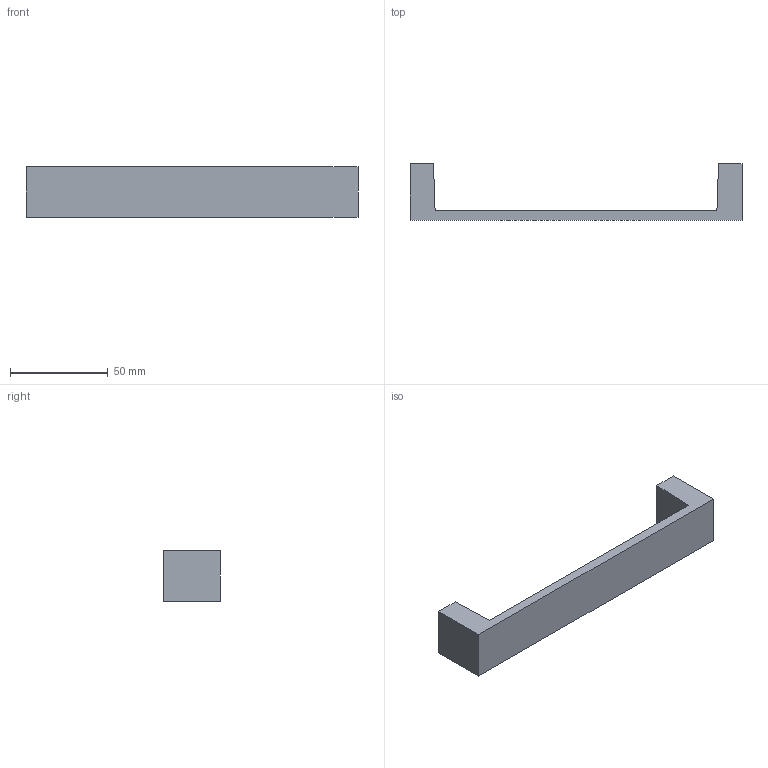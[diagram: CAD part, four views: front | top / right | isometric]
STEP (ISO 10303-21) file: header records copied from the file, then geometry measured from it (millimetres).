
FILE_DESCRIPTION( ( '' ), '1' );
FILE_NAME( 'C:/Documents and Settings/Sachin/Desktop/Sheet 10_1/stp/9132309.stp', '2013-10-22T05:33:08', ( '' ), ( '' ), ' ', ' ', ' ' );
FILE_SCHEMA( ( 'CONFIG_CONTROL_DESIGN' ) );
Length unit declared in the file: millimetre
Products named in the file (1): 1
Bounding box: 170 x 29 x 26 mm (x, y, z)
Volume: 37397.9 mm3; surface area: 14646.5 mm2
Topology: 1 solids, 1 shells, 16 faces, 36 edges, 24 vertices
Faces by surface type: plane 12, cylinder 4
Entity records: 492 total; most frequent: DIRECTION 78, CARTESIAN_POINT 77, ORIENTED_EDGE 72, EDGE_CURVE 36, LINE 28, VECTOR 28, AXIS2_PLACEMENT_3D 25, VERTEX_POINT 24
